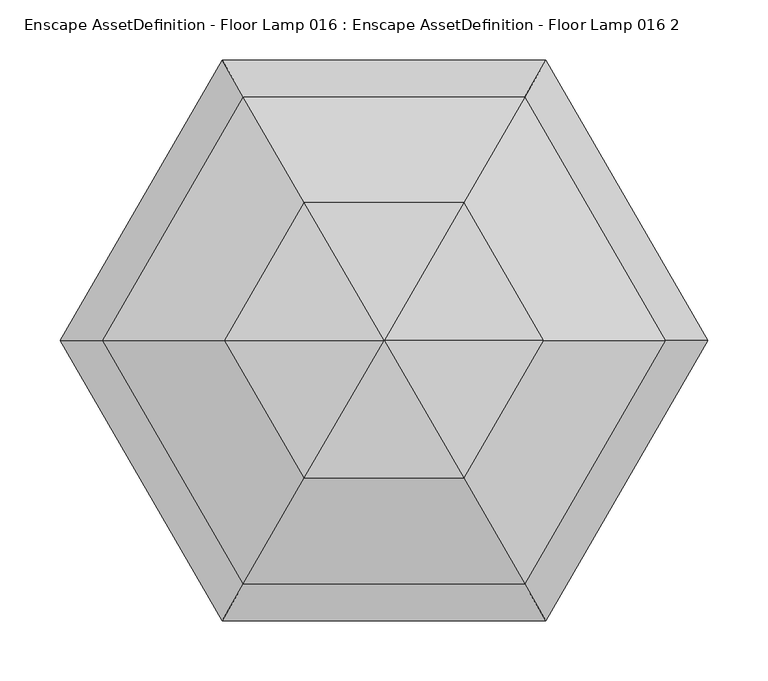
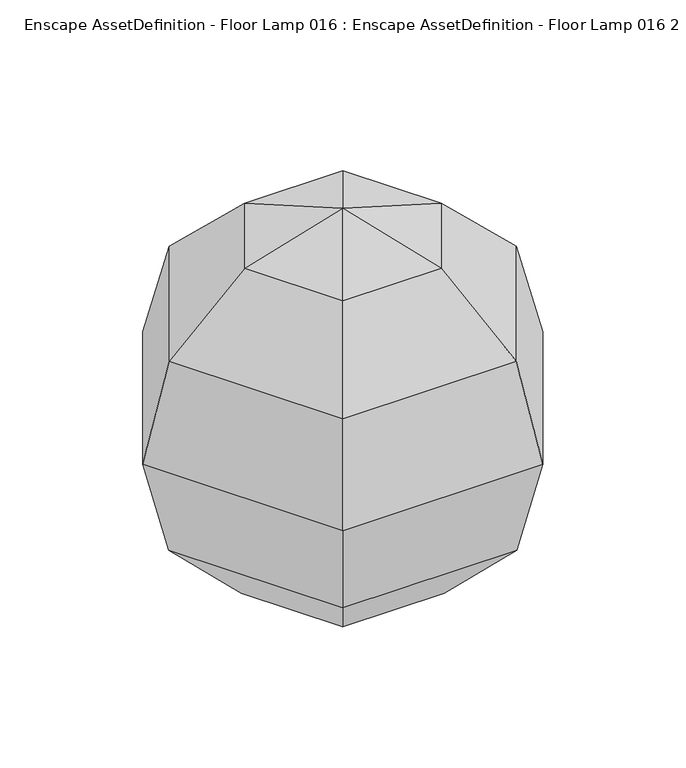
"""IFC4 building model written with IfcOpenShell, lengths in millimetres: geographic element geometry, Enscape AssetDefinition - Floor Lamp 016 : Enscape AssetDefinition - Floor Lamp 016 2."""

from ifc_helpers import new_model, si_unit, origin, place, context, project, spatial, triangles, source, transform, mapped, element, save


def enscape_assetdefinition_floor_lamp_016_enscape_5eb83b77(model_context):
    return source(origin(), model_context, "Body", "Tessellation", [
        triangles([(-116.9283461, -202.5254106, 364.1781343), (-233.8561109, 0.0, 364.1781343), (-269.5294421, 0.0, 229.6773325), (-116.9277738, 202.5254106, 364.1781343), (0.0, 0.0, 500.0000038), (-132.4697939, 0.0, 460.970046), (-66.2351786, -114.7221399, 460.970046), (-66.2346154, 114.7221399, 460.970046), (-134.7644485, 233.4195278, 229.6773325), (-68.3359179, 118.3611438, -0.4065387), (-117.1636333, 202.9336706, 95.1890117), (-136.6718358, 0.0, -0.4065387), (117.1636333, 202.9336706, 95.1890117), (134.7650117, 233.4195278, 229.6773325), (68.3359179, 118.3611438, -0.4065387), (269.5294421, 0.0, 229.6773325), (68.3359179, -118.3611438, -0.4065387), (-234.3278481, 0.0, 95.1890117), (-68.3359179, -118.3611438, -0.4065387), (234.3278481, 0.0, 95.1890117), (117.1636333, -202.9336706, 95.1890117), (136.6718358, 0.0, -0.4065387), (116.9283461, 202.5254106, 364.1781343), (-134.7650117, -233.4195278, 229.6773325), (134.7644485, -233.4195278, 229.6773325), (-117.1642147, -202.9336706, 95.1890117), (116.9277738, -202.5254106, 364.1781343), (132.4697939, 0.0, 460.970046), (233.8561109, 0.0, 364.1781343), (66.2351786, 114.7221399, 460.970046), (66.2346154, -114.7221399, 460.970046)], [[5, 7, 31], [1, 31, 7], [5, 31, 28], [5, 30, 8], [5, 28, 30], [23, 8, 30], [29, 23, 30], [29, 30, 28], [27, 29, 28], [1, 27, 31], [27, 28, 31], [24, 27, 1], [18, 26, 24], [18, 19, 26], [26, 19, 17], [21, 17, 22], [26, 17, 21], [26, 21, 25], [24, 25, 27], [26, 25, 24], [25, 29, 27], [25, 16, 29], [16, 23, 29], [25, 21, 20], [21, 22, 20], [25, 20, 16], [15, 22, 17], [20, 22, 15], [17, 19, 12], [18, 12, 19], [12, 15, 17], [12, 10, 15], [13, 15, 10], [16, 20, 13], [20, 15, 13], [16, 14, 23], [16, 13, 14], [11, 10, 12], [14, 13, 11], [11, 12, 18], [13, 10, 11], [11, 18, 3], [18, 24, 3], [11, 3, 9], [14, 11, 9], [14, 9, 4], [23, 4, 8], [14, 4, 23], [5, 8, 6], [5, 6, 7], [4, 6, 8], [9, 3, 2], [2, 3, 24], [4, 2, 6], [2, 1, 7], [9, 2, 4], [2, 24, 1], [2, 7, 6]]),
    ])


if __name__ == "__main__":
    model = new_model("IFC4")
    model_context = context("Model", 3, world=origin())
    ifc_project = project(units=[si_unit("LENGTHUNIT", "METRE", prefix="MILLI")], contexts=[model_context])
    site = spatial("IfcSite", under=ifc_project)
    building = spatial("IfcBuilding", under=site)
    placement = place(None, origin())
    enscape_assetdefinition_floor_lamp_016_enscape_shape = enscape_assetdefinition_floor_lamp_016_enscape_5eb83b77(model_context)
    element("IfcGeographicElement", 1, ObjectType="Enscape AssetDefinition - Floor Lamp 016 : Enscape AssetDefinition - Floor Lamp 016 2", at=placement, inside=building, context=model_context, shape_type="MappedRepresentation", body=[
        mapped(enscape_assetdefinition_floor_lamp_016_enscape_shape, transform((0.0, 0.0, 0.0), x_axis=(1.0, 0.0, 0.0), y_axis=(0.0, 1.0, 0.0), z_axis=(0.0, 0.0, 1.0))),
    ])
    save(model, "model.ifc")
